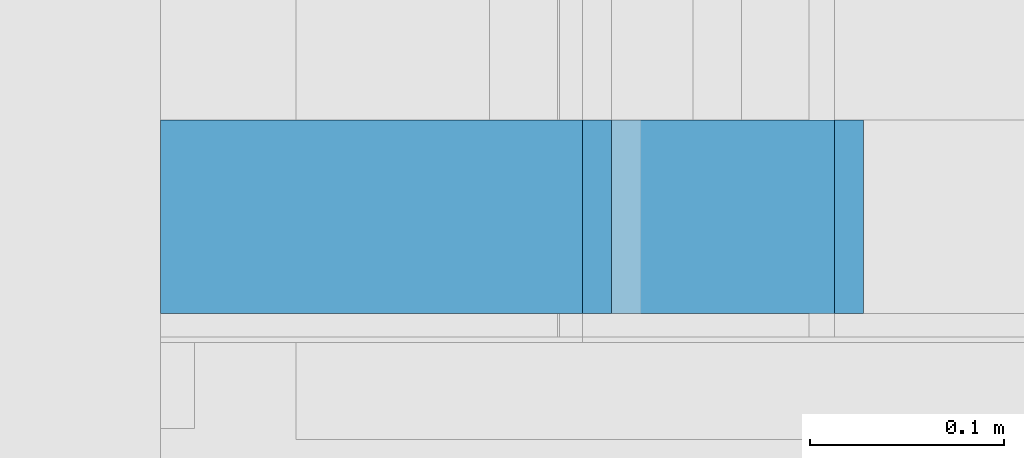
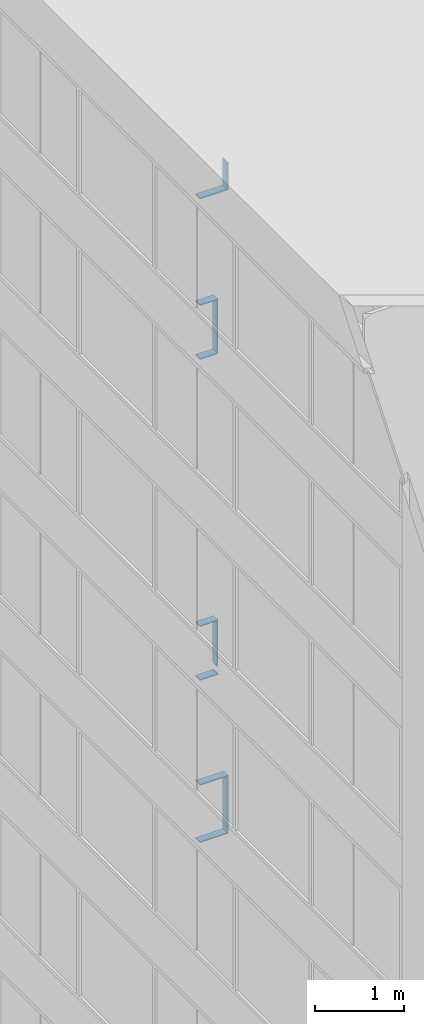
# One storey, part 196 of 583: 12 building element parts, 11 elements without a shape of their own.
"""IFC2X3 building model written with IfcOpenShell, lengths in metres."""

from ifc_helpers import new_model, entity, si_unit, converted_unit, derived_unit, money_unit, direction, frame, origin_with_axes, place, context, subcontext, project, spatial, polyline, outline, extrude, material, type_object, element, aggregate, save


model = new_model("IFC2X3")

# Units and contexts
model_context = context("Model", 3, precision=1e-05, world=origin_with_axes(), true_north=direction((0.0, 1.0)))
body_context = subcontext(model_context, "Body", "Model", "MODEL_VIEW", scale=1.0)
ifc_project = project(units=[si_unit("LENGTHUNIT", "METRE"), si_unit("AREAUNIT", "SQUARE_METRE"), si_unit("VOLUMEUNIT", "CUBIC_METRE"), si_unit("ABSORBEDDOSEUNIT", "GRAY"), si_unit("AMOUNTOFSUBSTANCEUNIT", "MOLE"), si_unit("DOSEEQUIVALENTUNIT", "SIEVERT"), si_unit("ELECTRICCAPACITANCEUNIT", "FARAD"), si_unit("ELECTRICCHARGEUNIT", "COULOMB"), si_unit("ELECTRICCONDUCTANCEUNIT", "SIEMENS"), si_unit("ELECTRICCURRENTUNIT", "AMPERE"), si_unit("ELECTRICRESISTANCEUNIT", "OHM"), si_unit("ELECTRICVOLTAGEUNIT", "VOLT"), si_unit("ENERGYUNIT", "JOULE"), si_unit("FORCEUNIT", "NEWTON"), si_unit("FREQUENCYUNIT", "HERTZ"), si_unit("ILLUMINANCEUNIT", "LUX"), si_unit("INDUCTANCEUNIT", "HENRY"), si_unit("LUMINOUSFLUXUNIT", "LUMEN"), si_unit("LUMINOUSINTENSITYUNIT", "CANDELA"), si_unit("MAGNETICFLUXDENSITYUNIT", "TESLA"), si_unit("MAGNETICFLUXUNIT", "WEBER"), si_unit("MASSUNIT", "GRAM"), converted_unit("PLANEANGLEUNIT", "degree", entity("IfcReal", 0.0174532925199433), si_unit("PLANEANGLEUNIT", "RADIAN"), dimensions=[0, 0, 0, 0, 0, 0, 0]), si_unit("POWERUNIT", "WATT"), si_unit("PRESSUREUNIT", "PASCAL"), si_unit("RADIOACTIVITYUNIT", "BECQUEREL"), si_unit("SOLIDANGLEUNIT", "STERADIAN"), si_unit("THERMODYNAMICTEMPERATUREUNIT", "KELVIN"), si_unit("TIMEUNIT", "SECOND"), derived_unit("ACCELERATIONUNIT", [(si_unit("LENGTHUNIT", "METRE"), 1), (si_unit("TIMEUNIT", "SECOND"), -2)]), derived_unit("ANGULARVELOCITYUNIT", [(converted_unit("PLANEANGLEUNIT", "degree", entity("IfcReal", 0.0174532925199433), si_unit("PLANEANGLEUNIT", "RADIAN"), dimensions=[0, 0, 0, 0, 0, 0, 0]), 1), (si_unit("TIMEUNIT", "SECOND"), -1)]), derived_unit("CURVATUREUNIT", [(converted_unit("PLANEANGLEUNIT", "degree", entity("IfcReal", 0.0174532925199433), si_unit("PLANEANGLEUNIT", "RADIAN"), dimensions=[0, 0, 0, 0, 0, 0, 0]), 1), (si_unit("LENGTHUNIT", "METRE"), -1)]), derived_unit("DYNAMICVISCOSITYUNIT", [(si_unit("PRESSUREUNIT", "PASCAL"), 1), (si_unit("TIMEUNIT", "SECOND"), 1)]), derived_unit("HEATFLUXDENSITYUNIT", [(si_unit("POWERUNIT", "WATT"), 1), (si_unit("LENGTHUNIT", "METRE"), -2)]), derived_unit("HEATINGVALUEUNIT", [(si_unit("ENERGYUNIT", "JOULE"), 1), (si_unit("MASSUNIT", "GRAM"), -1)]), derived_unit("INTEGERCOUNTRATEUNIT", [(si_unit("TIMEUNIT", "SECOND"), -1)]), derived_unit("IONCONCENTRATIONUNIT", [(si_unit("MASSUNIT", "GRAM"), 1), (si_unit("VOLUMEUNIT", "CUBIC_METRE"), -1)]), derived_unit("ISOTHERMALMOISTURECAPACITYUNIT", [(si_unit("VOLUMEUNIT", "CUBIC_METRE"), 1), (si_unit("MASSUNIT", "GRAM"), -1)]), derived_unit("KINEMATICVISCOSITYUNIT", [(si_unit("AREAUNIT", "SQUARE_METRE"), 1), (si_unit("TIMEUNIT", "SECOND"), -1)]), derived_unit("LINEARFORCEUNIT", [(si_unit("FORCEUNIT", "NEWTON"), 1), (si_unit("LENGTHUNIT", "METRE"), -1)]), derived_unit("LINEARMOMENTUNIT", [(si_unit("FORCEUNIT", "NEWTON"), 1), (si_unit("LENGTHUNIT", "METRE"), -1)]), derived_unit("LINEARSTIFFNESSUNIT", [(si_unit("FORCEUNIT", "NEWTON"), 1), (si_unit("LENGTHUNIT", "METRE"), -1)]), derived_unit("LINEARVELOCITYUNIT", [(si_unit("LENGTHUNIT", "METRE"), 1), (si_unit("TIMEUNIT", "SECOND"), -1)]), derived_unit("LUMINOUSINTENSITYDISTRIBUTIONUNIT", [(si_unit("LUMINOUSINTENSITYUNIT", "CANDELA"), 1), (si_unit("LUMINOUSFLUXUNIT", "LUMEN"), -1)]), derived_unit("MASSDENSITYUNIT", [(si_unit("MASSUNIT", "GRAM"), 1), (si_unit("VOLUMEUNIT", "CUBIC_METRE"), -1)]), derived_unit("MASSFLOWRATEUNIT", [(si_unit("MASSUNIT", "GRAM"), 1), (si_unit("TIMEUNIT", "SECOND"), -1)]), derived_unit("MASSPERLENGTHUNIT", [(si_unit("MASSUNIT", "GRAM"), 1), (si_unit("LENGTHUNIT", "METRE"), -1)]), derived_unit("MODULUSOFELASTICITYUNIT", [(si_unit("FORCEUNIT", "NEWTON"), 1), (si_unit("AREAUNIT", "SQUARE_METRE"), -1)]), derived_unit("MODULUSOFLINEARSUBGRADEREACTIONUNIT", [(si_unit("FORCEUNIT", "NEWTON"), 1), (si_unit("LENGTHUNIT", "METRE"), -2)]), derived_unit("MODULUSOFROTATIONALSUBGRADEREACTIONUNIT", [(si_unit("FORCEUNIT", "NEWTON"), 1), (si_unit("LENGTHUNIT", "METRE"), 1)]), derived_unit("MODULUSOFSUBGRADEREACTIONUNIT", [(si_unit("FORCEUNIT", "NEWTON"), 1), (si_unit("VOLUMEUNIT", "CUBIC_METRE"), -1)]), derived_unit("MOISTUREDIFFUSIVITYUNIT", [(si_unit("VOLUMEUNIT", "CUBIC_METRE"), 1), (si_unit("TIMEUNIT", "SECOND"), -1)]), derived_unit("MOLECULARWEIGHTUNIT", [(si_unit("MASSUNIT", "GRAM"), 1), (si_unit("AMOUNTOFSUBSTANCEUNIT", "MOLE"), -1)]), derived_unit("PLANARFORCEUNIT", [(si_unit("FORCEUNIT", "NEWTON"), 1), (si_unit("LENGTHUNIT", "METRE"), -2)]), derived_unit("ROTATIONALFREQUENCYUNIT", [(si_unit("TIMEUNIT", "SECOND"), -1)]), derived_unit("ROTATIONALMASSUNIT", [(si_unit("MASSUNIT", "GRAM"), 1), (si_unit("LENGTHUNIT", "METRE"), 2)]), derived_unit("ROTATIONALSTIFFNESSUNIT", [(si_unit("FORCEUNIT", "NEWTON"), 1), (si_unit("LENGTHUNIT", "METRE"), 1), (converted_unit("PLANEANGLEUNIT", "degree", entity("IfcReal", 0.0174532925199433), si_unit("PLANEANGLEUNIT", "RADIAN"), dimensions=[0, 0, 0, 0, 0, 0, 0]), -1)]), derived_unit("SECTIONAREAINTEGRALUNIT", [(si_unit("LENGTHUNIT", "METRE"), 5)]), derived_unit("SECTIONMODULUSUNIT", [(si_unit("LENGTHUNIT", "METRE"), 3)]), derived_unit("SHEARMODULUSUNIT", [(si_unit("FORCEUNIT", "NEWTON"), 1), (si_unit("AREAUNIT", "SQUARE_METRE"), -1)]), derived_unit("SOUNDPOWERUNIT", [(si_unit("ENERGYUNIT", "JOULE"), 1), (si_unit("TIMEUNIT", "SECOND"), -1)]), derived_unit("SPECIFICHEATCAPACITYUNIT", [(si_unit("FORCEUNIT", "NEWTON"), 1), (si_unit("MASSUNIT", "GRAM"), -1), (si_unit("THERMODYNAMICTEMPERATUREUNIT", "KELVIN"), -1)]), derived_unit("TEMPERATUREGRADIENTUNIT", [(si_unit("THERMODYNAMICTEMPERATUREUNIT", "KELVIN"), 1), (si_unit("LENGTHUNIT", "METRE"), -1)]), derived_unit("THERMALADMITTANCEUNIT", [(si_unit("POWERUNIT", "WATT"), 1), (si_unit("AREAUNIT", "SQUARE_METRE"), -1), (si_unit("THERMODYNAMICTEMPERATUREUNIT", "KELVIN"), -1)]), derived_unit("THERMALCONDUCTANCEUNIT", [(si_unit("POWERUNIT", "WATT"), 1), (si_unit("LENGTHUNIT", "METRE"), -1), (si_unit("THERMODYNAMICTEMPERATUREUNIT", "KELVIN"), -1)]), derived_unit("THERMALEXPANSIONCOEFFICIENTUNIT", [(si_unit("THERMODYNAMICTEMPERATUREUNIT", "KELVIN"), -1)]), derived_unit("THERMALRESISTANCEUNIT", [(si_unit("AREAUNIT", "SQUARE_METRE"), 1), (si_unit("POWERUNIT", "WATT"), -1)]), derived_unit("THERMALTRANSMITTANCEUNIT", [(si_unit("POWERUNIT", "WATT"), 1), (si_unit("AREAUNIT", "SQUARE_METRE"), -1), (si_unit("THERMODYNAMICTEMPERATUREUNIT", "KELVIN"), -1)]), derived_unit("TORQUEUNIT", [(si_unit("FORCEUNIT", "NEWTON"), 1), (si_unit("LENGTHUNIT", "METRE"), 1)]), derived_unit("VAPORPERMEABILITYUNIT", [(si_unit("MASSUNIT", "GRAM"), 1), (si_unit("TIMEUNIT", "SECOND"), -1)]), derived_unit("VOLUMETRICFLOWRATEUNIT", [(si_unit("VOLUMEUNIT", "CUBIC_METRE"), 1), (si_unit("TIMEUNIT", "SECOND"), -1)]), derived_unit("WARPINGCONSTANTUNIT", [(si_unit("LENGTHUNIT", "METRE"), 6)]), derived_unit("WARPINGMOMENTUNIT", [(si_unit("FORCEUNIT", "NEWTON"), 1), (si_unit("LENGTHUNIT", "METRE"), 2)]), money_unit("GBP")], contexts=[model_context])

# Site, building, storey
site_placement = place(None, origin_with_axes())
site = spatial("IfcSite", under=ifc_project, at=site_placement, Name="Site", CompositionType="ELEMENT")
building_placement = place(site_placement, origin_with_axes())
building = spatial("IfcBuilding", under=site, at=building_placement, Name="Building01", CompositionType="ELEMENT")
storey_placement = place(building_placement, frame((0.0, 0.0, 20.78), z_axis=(0.0, 0.0, 1.0), x_axis=(1.0, 0.0, 0.0)))
storey = spatial("IfcBuildingStorey", under=building, at=storey_placement, Name="RL", CompositionType="ELEMENT", Elevation=20.78)

# Wall, building element part
wall_type = type_object("IfcWallType", Name="SHE_A-Walls_Type06d_ExternalWallInsulation_48mm", PredefinedType="NOTDEFINED")
wall_1_placement = place(storey_placement, frame((0.1, 8.64, -3.23), z_axis=(0.0, 1.0, 0.0), x_axis=(1.0, 0.0, 0.0)))
wall_1 = element("IfcWall", 1, at=wall_1_placement, inside=storey, type_object=wall_type, Name="6D", ObjectType="SHE_A-Walls_Type06d_ExternalWallInsulation_48mm")
ifc_material = material(Name="A_BSUK_Walls_Timber")
building_element_part_1_placement = place(wall_1_placement, origin_with_axes())
building_element_part_1 = element("IfcBuildingElementPart", 2, at=building_element_part_1_placement, material=ifc_material, Name="2", context=body_context, shape_type="SweptSolid", body=[
    extrude(outline(polyline([(0.363, 0.063), (0.0, 0.063), (0.0, 0.048), (0.348, 0.048), (0.363, 0.063)])), frame((0.0, 0.0, 0.015), z_axis=(0.0, 0.0, 1.0), x_axis=(1.0, 0.0, 0.0)), (0.0, 0.0, 1.0), 0.1),
])
aggregate(wall_1, [building_element_part_1])

wall_2_placement = place(storey_placement, frame((0.4, 8.64, -3.23), z_axis=(0.0, 1.0, 0.0), x_axis=(0.0, 0.0, 1.0)))
wall_2 = element("IfcWall", 3, at=wall_2_placement, inside=storey, type_object=wall_type, Name="6D", ObjectType="SHE_A-Walls_Type06d_ExternalWallInsulation_48mm")
building_element_part_2_placement = place(wall_2_placement, origin_with_axes())
building_element_part_2 = element("IfcBuildingElementPart", 4, at=building_element_part_2_placement, material=ifc_material, Name="2", context=body_context, shape_type="SweptSolid", body=[
    extrude(outline(polyline([(0.733, 0.063), (-0.063, 0.063), (-0.048, 0.048), (0.718, 0.048), (0.733, 0.063)])), frame((0.0, 0.0, 0.015), z_axis=(0.0, 0.0, 1.0), x_axis=(1.0, 0.0, 0.0)), (0.0, 0.0, 1.0), 0.1),
])
aggregate(wall_2, [building_element_part_2])

wall_3_placement = place(storey_placement, frame((0.4, 8.64, -2.56), z_axis=(0.0, 1.0, 0.0), x_axis=(-1.0, 0.0, 0.0)))
wall_3 = element("IfcWall", 5, at=wall_3_placement, inside=storey, type_object=wall_type, Name="6D", ObjectType="SHE_A-Walls_Type06d_ExternalWallInsulation_48mm")
building_element_part_3_placement = place(wall_3_placement, origin_with_axes())
building_element_part_3 = element("IfcBuildingElementPart", 6, at=building_element_part_3_placement, material=ifc_material, Name="2", context=body_context, shape_type="SweptSolid", body=[
    extrude(outline(polyline([(-0.063, 0.063), (-0.048, 0.048), (0.3, 0.048), (0.3, 0.063), (-0.063, 0.063)])), frame((0.0, 0.0, 0.015), z_axis=(0.0, 0.0, 1.0), x_axis=(1.0, 0.0, 0.0)), (0.0, 0.0, 1.0), 0.1),
])
aggregate(wall_3, [building_element_part_3])

wall_4_placement = place(storey_placement, frame((0.1, 8.64, -1.017), z_axis=(0.0, 1.0, 0.0), x_axis=(1.0, 0.0, 0.0)))
wall_4 = element("IfcWall", 7, at=wall_4_placement, inside=storey, type_object=wall_type, Name="6D", ObjectType="SHE_A-Walls_Type06d_ExternalWallInsulation_48mm")
building_element_part_4_placement = place(wall_4_placement, origin_with_axes())
building_element_part_4 = element("IfcBuildingElementPart", 8, at=building_element_part_4_placement, material=ifc_material, Name="2", context=body_context, shape_type="SweptSolid", body=[
    extrude(outline(polyline([(0.233, 0.063), (0.0, 0.063), (0.0, 0.048), (0.218, 0.048), (0.233, 0.063)])), frame((0.0, 0.0, 0.015), z_axis=(0.0, 0.0, 1.0), x_axis=(1.0, 0.0, 0.0)), (0.0, 0.0, 1.0), 0.1),
])
aggregate(wall_4, [building_element_part_4])

wall_5_placement = place(storey_placement, frame((0.27, 8.64, -0.393), z_axis=(0.0, 1.0, 0.0), x_axis=(-1.0, 0.0, 0.0)))
wall_5 = element("IfcWall", 9, at=wall_5_placement, inside=storey, type_object=wall_type, Name="6D", ObjectType="SHE_A-Walls_Type06d_ExternalWallInsulation_48mm")
building_element_part_5_placement = place(wall_5_placement, origin_with_axes())
building_element_part_5 = element("IfcBuildingElementPart", 10, at=building_element_part_5_placement, material=ifc_material, Name="2", context=body_context, shape_type="SweptSolid", body=[
    extrude(outline(polyline([(-0.063, 0.063), (-0.048, 0.048), (0.17, 0.048), (0.17, 0.063), (-0.063, 0.063)])), frame((0.0, 0.0, 0.015), z_axis=(0.0, 0.0, 1.0), x_axis=(1.0, 0.0, 0.0)), (0.0, 0.0, 1.0), 0.1),
])
aggregate(wall_5, [building_element_part_5])

wall_6_placement = place(storey_placement, frame((0.1, 8.64, 3.363), z_axis=(0.0, 1.0, 0.0), x_axis=(1.0, 0.0, 0.0)))
wall_6 = element("IfcWall", 11, at=wall_6_placement, inside=storey, type_object=wall_type, Name="6D", ObjectType="SHE_A-Walls_Type06d_ExternalWallInsulation_48mm")
building_element_part_6_placement = place(wall_6_placement, origin_with_axes())
building_element_part_6 = element("IfcBuildingElementPart", 12, at=building_element_part_6_placement, material=ifc_material, Name="2", context=body_context, shape_type="SweptSolid", body=[
    extrude(outline(polyline([(0.233, 0.063), (0.0, 0.063), (0.0, 0.048), (0.218, 0.048), (0.233, 0.063)])), frame((0.0, 0.0, 0.015), z_axis=(0.0, 0.0, 1.0), x_axis=(1.0, 0.0, 0.0)), (0.0, 0.0, 1.0), 0.1),
])
aggregate(wall_6, [building_element_part_6])

wall_7_placement = place(storey_placement, frame((0.27, 8.64, 3.363), z_axis=(0.0, 1.0, 0.0), x_axis=(0.0, 0.0, 1.0)))
wall_7 = element("IfcWall", 13, at=wall_7_placement, inside=storey, type_object=wall_type, Name="6D", ObjectType="SHE_A-Walls_Type06d_ExternalWallInsulation_48mm")
building_element_part_7_placement = place(wall_7_placement, origin_with_axes())
building_element_part_7 = element("IfcBuildingElementPart", 14, at=building_element_part_7_placement, material=ifc_material, Name="2", context=body_context, shape_type="SweptSolid", body=[
    extrude(outline(polyline([(0.687, 0.063), (-0.063, 0.063), (-0.048, 0.048), (0.672, 0.048), (0.687, 0.063)])), frame((0.0, 0.0, 0.015), z_axis=(0.0, 0.0, 1.0), x_axis=(1.0, 0.0, 0.0)), (0.0, 0.0, 1.0), 0.1),
])
aggregate(wall_7, [building_element_part_7])

wall_8_placement = place(storey_placement, frame((0.27, 8.64, 3.987), z_axis=(0.0, 1.0, 0.0), x_axis=(-1.0, 0.0, 0.0)))
wall_8 = element("IfcWall", 15, at=wall_8_placement, inside=storey, type_object=wall_type, Name="6D", ObjectType="SHE_A-Walls_Type06d_ExternalWallInsulation_48mm")
building_element_part_8_placement = place(wall_8_placement, origin_with_axes())
building_element_part_8 = element("IfcBuildingElementPart", 16, at=building_element_part_8_placement, material=ifc_material, Name="2", context=body_context, shape_type="SweptSolid", body=[
    extrude(outline(polyline([(-0.063, 0.063), (-0.048, 0.048), (0.17, 0.048), (0.17, 0.063), (-0.063, 0.063)])), frame((0.0, 0.0, 0.015), z_axis=(0.0, 0.0, 1.0), x_axis=(1.0, 0.0, 0.0)), (0.0, 0.0, 1.0), 0.1),
])
aggregate(wall_8, [building_element_part_8])

wall_9_placement = place(storey_placement, frame((0.1, 8.64, 5.553), z_axis=(0.0, 1.0, 0.0), x_axis=(1.0, 0.0, 0.0)))
wall_9 = element("IfcWall", 17, at=wall_9_placement, inside=storey, type_object=wall_type, Name="6D", ObjectType="SHE_A-Walls_Type06d_ExternalWallInsulation_48mm")
building_element_part_9_placement = place(wall_9_placement, origin_with_axes())
building_element_part_9 = element("IfcBuildingElementPart", 18, at=building_element_part_9_placement, material=ifc_material, Name="2", context=body_context, shape_type="SweptSolid", body=[
    extrude(outline(polyline([(0.363, 0.063), (0.0, 0.063), (0.0, 0.048), (0.348, 0.048), (0.363, 0.063)])), frame((0.0, 0.0, 0.015), z_axis=(0.0, 0.0, 1.0), x_axis=(1.0, 0.0, 0.0)), (0.0, 0.0, 1.0), 0.1),
])
aggregate(wall_9, [building_element_part_9])

wall_10_placement = place(storey_placement, frame((0.4, 8.64, 5.553), z_axis=(0.0, 1.0, 0.0), x_axis=(0.0, 0.0, 1.0)))
wall_10 = element("IfcWall", 19, at=wall_10_placement, inside=storey, type_object=wall_type, Name="6D", ObjectType="SHE_A-Walls_Type06d_ExternalWallInsulation_48mm")
building_element_part_10_placement = place(wall_10_placement, origin_with_axes())
building_element_part_10 = element("IfcBuildingElementPart", 20, at=building_element_part_10_placement, material=ifc_material, Name="2", context=body_context, shape_type="SweptSolid", body=[
    extrude(outline(polyline([(0.314, 0.063), (-0.063, 0.063), (-0.048, 0.048), (0.329, 0.048), (0.314, 0.063)])), frame((0.0, 0.0, 0.015), z_axis=(0.0, 0.0, 1.0), x_axis=(1.0, 0.0, 0.0)), (0.0, 0.0, 1.0), 0.1),
])
aggregate(wall_10, [building_element_part_10])

# Wall, building element parts
wall_11_placement = place(storey_placement, frame((0.27, 8.64, -1.017), z_axis=(0.0, 1.0, 0.0), x_axis=(0.0, 0.0, 1.0)))
wall_11 = element("IfcWall", 21, at=wall_11_placement, inside=storey, type_object=wall_type, Name="6D", ObjectType="SHE_A-Walls_Type06d_ExternalWallInsulation_48mm")
placement = place(wall_11_placement, origin_with_axes())
building_element_part_11 = element("IfcBuildingElementPart", 22, at=placement, material=ifc_material, Name="2", context=body_context, shape_type="SweptSolid", body=[
    extrude(outline(polyline([(-0.063, 0.063), (-0.048, 0.048), (-0.047717, 0.048), (-0.047717, 0.063), (-0.063, 0.063)])), frame((0.0, 0.0, 0.015), z_axis=(0.0, 0.0, 1.0), x_axis=(1.0, 0.0, 0.0)), (0.0, 0.0, 1.0), 0.1),
])
building_element_part_12 = element("IfcBuildingElementPart", 23, at=placement, material=ifc_material, Name="3", context=body_context, shape_type="SweptSolid", body=[
    extrude(outline(polyline([(0.687, 0.063), (0.047, 0.063), (0.047, 0.048), (0.672, 0.048), (0.687, 0.063)])), frame((0.0, 0.0, 0.015), z_axis=(0.0, 0.0, 1.0), x_axis=(1.0, 0.0, 0.0)), (0.0, 0.0, 1.0), 0.1),
])
aggregate(wall_11, [building_element_part_11, building_element_part_12])

save(model, "model.ifc")
